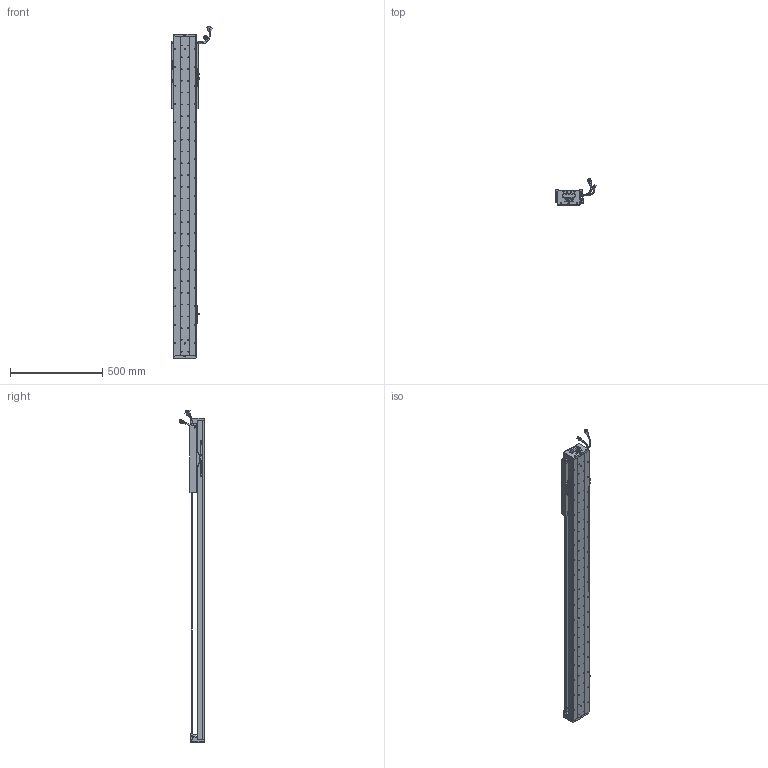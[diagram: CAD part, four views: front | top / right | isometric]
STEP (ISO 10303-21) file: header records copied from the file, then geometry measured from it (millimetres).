
FILE_DESCRIPTION (( 'STEP AP203' ), '1' );
FILE_NAME ('Z5-RY120D-1-L500-B-K.SLDASM_1350.step', '2021-05-17T06:22:53', ( '盈信电脑' ), ( '东莞市道滘镇水果街19号' ), 'SwSTEP 2.0', 'SolidWorks 2016', '' );
FILE_SCHEMA (( 'CONFIG_CONTROL_DESIGN' ));
Length unit declared in the file: millimetre
Products named in the file (37): Z5-RY120-L500詩湍100mm遵_1300; SCALE-Part-1; 080黍杅芛假蚾釱21遴; SCREW-M1.6-2; HARNESS; COVER; HARNESS-Part-2; SCREW-M1.6; Z-RY120D詩湍奻揤裔; HARNESS-Part-1; Z5-RY120铝滑块（21款）; SCREW-M1.6-3; LABEL-Part-1; 120-Z-臏賑輸盄裔(21遴); RY100FB-遵嫖萇覜茼え; LABEL; 140蚥薯蝶輸; SEAL; PSLH080_PSLF2; PBU_SHEET; Z-120詩湍傷裔啣; 覜茼ん672; SCALE-Part-2; Z-RY120D詩湍狟揤裔; Z5-RY120-500-倰第菁釱_1300; 140雄赽晤鎢ん堤盄; SEAL-Part-1; SCALE; SCREW-M1.6-1; SCREW-M1.7; HOLDER0; 672嫖萇羲壽假蚾釱; Z5-RY120D-1-L500-B-K.SLDASM_1350; 榋妏寠巭燃_暯_M2_2; SCREW-M1.7-1; COVER-Part-1; SHIELDPLATE
Assembly tree (43 placements, depth 4):
  Z5-RY120D-1-L500-B-K.SLDASM_1350
    Z5-RY120-500-倰第菁釱_1300
    覜茼ん672  x3
    672嫖萇羲壽假蚾釱  x2
    Z5-RY120铝滑块（21款）
    PSLH080_PSLF2
      SCALE
        SCALE-Part-1
        SCALE-Part-2
      HARNESS
        HARNESS-Part-1
        HARNESS-Part-2
      LABEL
        LABEL-Part-1
      COVER
        COVER-Part-1
      SEAL
        SEAL-Part-1
      榋妏寠巭燃_暯_M2_2
      SHIELDPLATE
      SCREW-M1.7
      SCREW-M1.7-1
      PBU_SHEET
      SCREW-M1.6
      SCREW-M1.6-1
      SCREW-M1.6-2
      SCREW-M1.6-3
      HOLDER0
    080黍杅芛假蚾釱21遴
    120-Z-臏賑輸盄裔(21遴)
    140雄赽晤鎢ん堤盄
    140蚥薯蝶輸  x2
    RY100FB-遵嫖萇覜茼え
    Z-120詩湍傷裔啣  x2
    Z-RY120D詩湍奻揤裔  x2
    Z-RY120D詩湍狟揤裔  x2
    Z5-RY120-L500詩湍100mm遵_1300
Bounding box: 222.86 x 140.94 x 1803.99 mm (x, y, z)
Volume: 4868225.7 mm3; surface area: 1610138.6 mm2
Topology: 38 solids, 38 shells, 3249 faces, 8987 edges, 5678 vertices
Faces by surface type: cylinder 1619, plane 1186, cone 322, torus 69, bspline 53
Entity records: 103282 total; most frequent: CARTESIAN_POINT 29475, ORIENTED_EDGE 14854, DIRECTION 14187, EDGE_CURVE 7427, AXIS2_PLACEMENT_3D 5244, VERTEX_POINT 4798, VECTOR 3699, LINE 3699
